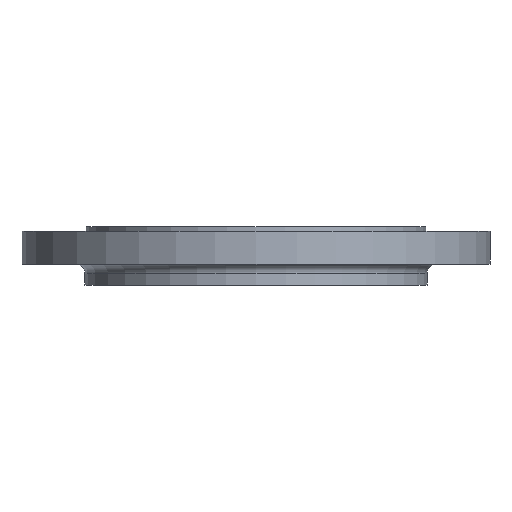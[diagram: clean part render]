
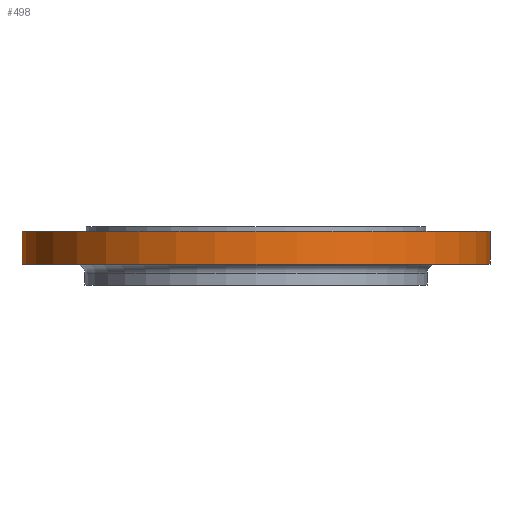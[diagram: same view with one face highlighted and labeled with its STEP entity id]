
A CAD part, front view. The second image highlights one B-rep face of the part: STEP entity #498.
In plain terms, the highlighted cylindrical face has radius 290 mm (diameter 580 mm), a partial arc.
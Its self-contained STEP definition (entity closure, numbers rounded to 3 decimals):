
#256 = EDGE_LOOP ( 'NONE', ( #363, #366, #367, #368 ) ) ;
#259 = VERTEX_POINT ( 'NONE', #1437 ) ;
#341 = CARTESIAN_POINT ( 'NONE',  ( -290., 0., -5.5 ) ) ;
#363 = ORIENTED_EDGE ( 'NONE', *, *, #1232, .F. ) ;
#366 = ORIENTED_EDGE ( 'NONE', *, *, #1397, .T. ) ;
#367 = ORIENTED_EDGE ( 'NONE', *, *, #1348, .T. ) ;
#368 = ORIENTED_EDGE ( 'NONE', *, *, #1341, .T. ) ;
#496 = VERTEX_POINT ( 'NONE', #1257 ) ;
#498 = ADVANCED_FACE ( 'NONE', ( #1256 ), #1255, .T. ) ;
#549 = CIRCLE ( 'NONE', #552, 290. ) ;
#552 = AXIS2_PLACEMENT_3D ( 'NONE', #727, #725, #722 ) ;
#564 = VECTOR ( 'NONE', #716, 1000. ) ;
#630 = DIRECTION ( 'NONE',  ( 1., 0., 0. ) ) ;
#633 = DIRECTION ( 'NONE',  ( 0., 0., 1. ) ) ;
#690 = CIRCLE ( 'NONE', #1183, 290. ) ;
#716 = DIRECTION ( 'NONE',  ( 0., 0., 1. ) ) ;
#718 = CARTESIAN_POINT ( 'NONE',  ( 290., 0., -135. ) ) ;
#721 = LINE ( 'NONE', #718, #564 ) ;
#722 = DIRECTION ( 'NONE',  ( -1., 0., 0. ) ) ;
#725 = DIRECTION ( 'NONE',  ( 0., 0., -1. ) ) ;
#727 = CARTESIAN_POINT ( 'NONE',  ( 0., 0., -5.5 ) ) ;
#793 = AXIS2_PLACEMENT_3D ( 'NONE', #1254, #1253, #1252 ) ;
#805 = DIRECTION ( 'NONE',  ( 0., 0., 1. ) ) ;
#811 = CARTESIAN_POINT ( 'NONE',  ( 0., 0., -46. ) ) ;
#851 = CARTESIAN_POINT ( 'NONE',  ( -290., 0., -135. ) ) ;
#854 = LINE ( 'NONE', #851, #1045 ) ;
#861 = CARTESIAN_POINT ( 'NONE',  ( 290., 0., -5.5 ) ) ;
#1045 = VECTOR ( 'NONE', #805, 1000. ) ;
#1167 = VERTEX_POINT ( 'NONE', #861 ) ;
#1183 = AXIS2_PLACEMENT_3D ( 'NONE', #811, #633, #630 ) ;
#1232 = EDGE_CURVE ( 'NONE', #259, #1593, #854, .T. ) ;
#1252 = DIRECTION ( 'NONE',  ( 1., 0., 0. ) ) ;
#1253 = DIRECTION ( 'NONE',  ( 0., 0., 1. ) ) ;
#1254 = CARTESIAN_POINT ( 'NONE',  ( 0., 0., -135. ) ) ;
#1255 = CYLINDRICAL_SURFACE ( 'NONE', #793, 290. ) ;
#1256 = FACE_OUTER_BOUND ( 'NONE', #256, .T. ) ;
#1257 = CARTESIAN_POINT ( 'NONE',  ( 290., 0., -46. ) ) ;
#1341 = EDGE_CURVE ( 'NONE', #1167, #1593, #549, .T. ) ;
#1348 = EDGE_CURVE ( 'NONE', #496, #1167, #721, .T. ) ;
#1397 = EDGE_CURVE ( 'NONE', #259, #496, #690, .T. ) ;
#1437 = CARTESIAN_POINT ( 'NONE',  ( -290., 0., -46. ) ) ;
#1593 = VERTEX_POINT ( 'NONE', #341 ) ;
